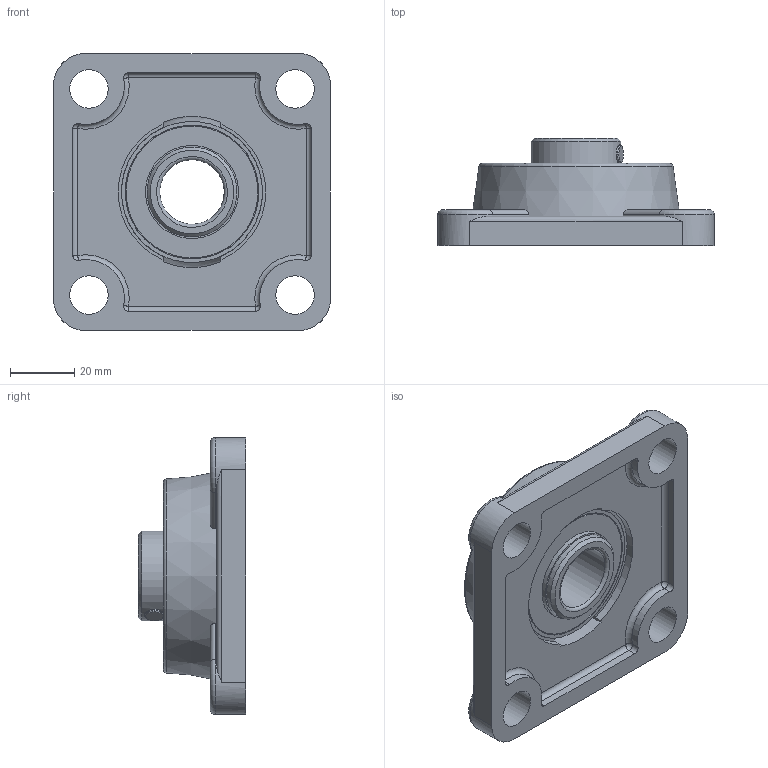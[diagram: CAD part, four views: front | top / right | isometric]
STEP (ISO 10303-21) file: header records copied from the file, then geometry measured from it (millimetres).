
FILE_DESCRIPTION(/* description */ (''),/* implementation_level */ '2;1');
FILE_NAME(/* name */ 'C:\MOJE SUBORY\03_Doplnenie 3D modelov\fgc\FGC204.stp',/* time_stamp */ '2020-12-10T08:52:53+01:00',/* author */ ('OUPIONTEKM'),/* organization */ (''),/* preprocessor_version */ 'ST-DEVELOPER v18.1',/* originating_system */ 'Autodesk Inventor 2021',/* authorisation */ '');
FILE_SCHEMA (('AUTOMOTIVE_DESIGN { 1 0 10303 214 3 1 1 }'));
Length unit declared in the file: millimetre
Products named in the file (3): FGC208; FG208; UC204
Assembly tree (2 placements, depth 2):
  FGC208
    FG208
    UC204
Bounding box: 86 x 33.3 x 86 mm (x, y, z)
Volume: 80949.9 mm3; surface area: 43942.5 mm2
Topology: 19 solids, 19 shells, 234 faces, 690 edges, 448 vertices
Faces by surface type: plane 90, cylinder 73, sphere 51, torus 13, cone 7
Full cylindrical faces by diameter (mm): 1.8 x2, 6 x4, 12 x4, 20 x1, 27.943 x6, 28.943 x2, 31.119 x2, 35.881 x2, 39.057 x2, 40.957 x2, 41.557 x4, 45.818 x1, 48.56 x1
Entity records: 9415 total; most frequent: CARTESIAN_POINT 3067, DIRECTION 1400, ORIENTED_EDGE 1276, EDGE_CURVE 638, AXIS2_PLACEMENT_3D 625, VERTEX_POINT 448, CIRCLE 386, EDGE_LOOP 274
